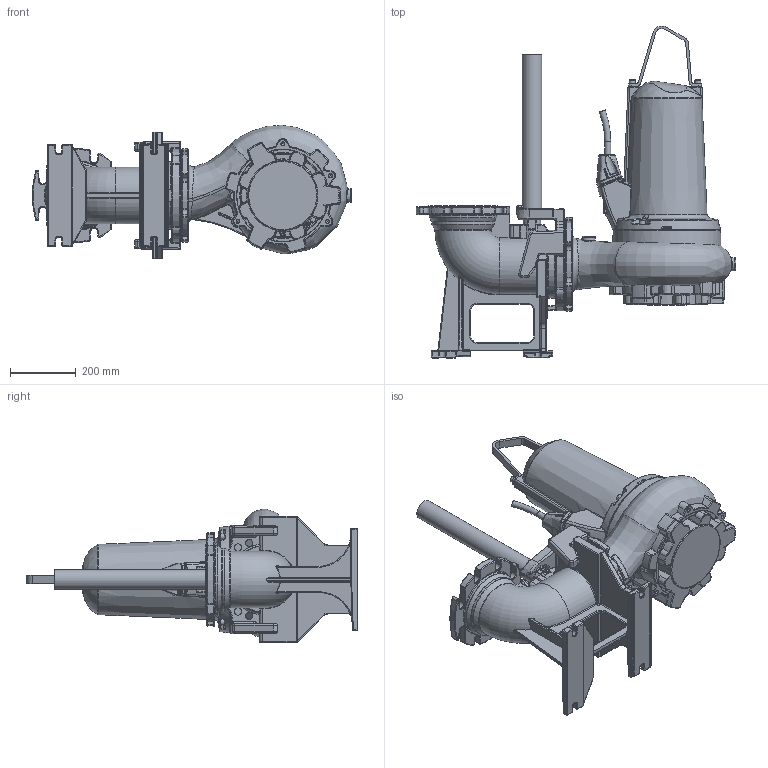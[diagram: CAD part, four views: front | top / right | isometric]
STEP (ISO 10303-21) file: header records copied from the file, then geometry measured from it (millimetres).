
FILE_DESCRIPTION (( 'STEP AP203' ), '1' );
FILE_NAME ('XFP150E-CB1_PE2B_Wet_2Inch Rail-.step', '2024-01-16T15:43:59', ( '' ), ( '' ), 'SwSTEP 2.0', 'SolidWorks 2017', '' );
FILE_SCHEMA (( 'CONFIG_CONTROL_DESIGN' ));
Products named in the file (2): XFP150E-CB1_PE2B_Wet_2Inch Rail-
Bounding box: 973 x 1011.3 x 406.44 mm (x, y, z)
Volume: 63254373 mm3; surface area: 2289576.4 mm2
Topology: 17 solids, 21 shells, 3074 faces, 7391 edges, 4250 vertices
Faces by surface type: bspline 973, cylinder 812, plane 658, torus 358, sphere 145, cone 128
Full cylindrical faces by diameter (mm): 6 x1, 6.8 x2, 8 x4, 8.5 x2, 9 x2, 10 x6, 10.2 x9, 11 x3, 12 x14, 12.5 x2, 13 x5, 16 x3, 17 x3, 17.8 x1, 18 x5, 18.7 x1, 22 x12, 52.5 x1, 60.3 x1, 62 x1, 212 x2, 280 x1
Entity records: 157526 total; most frequent: CARTESIAN_POINT 95627, ORIENTED_EDGE 13982, DIRECTION 11145, EDGE_CURVE 6991, AXIS2_PLACEMENT_3D 4481, VERTEX_POINT 4187, EDGE_LOOP 3346, FACE_OUTER_BOUND 3194
